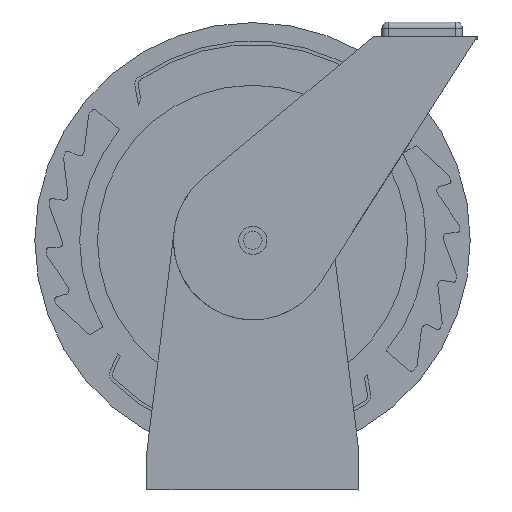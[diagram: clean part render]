
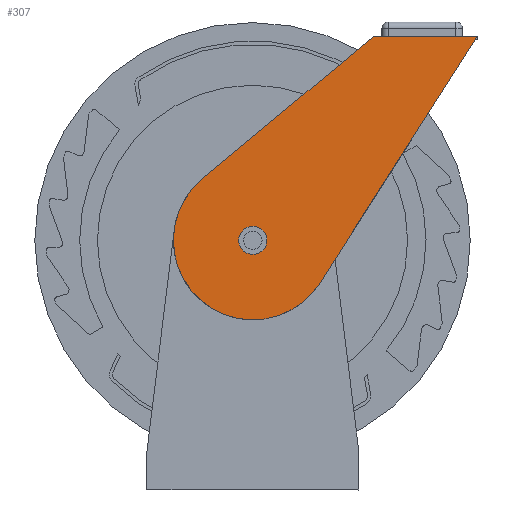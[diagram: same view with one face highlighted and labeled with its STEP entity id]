
A CAD part, left-side view. The second image highlights one B-rep face of the part: STEP entity #307.
In plain terms, the highlighted planar face has unit normal (-1, 0, 0).
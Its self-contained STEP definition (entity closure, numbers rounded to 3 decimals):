
#307 = ADVANCED_FACE( '', ( #754, #755 ), #756, .F. );
#754 = FACE_BOUND( '', #1352, .T. );
#755 = FACE_OUTER_BOUND( '', #1353, .T. );
#756 = PLANE( '', #1354 );
#1352 = EDGE_LOOP( '', ( #2283 ) );
#1353 = EDGE_LOOP( '', ( #2284, #2285, #2286, #2287 ) );
#1354 = AXIS2_PLACEMENT_3D( '', #2288, #2289, #2290 );
#2283 = ORIENTED_EDGE( '', *, *, #3775, .T. );
#2284 = ORIENTED_EDGE( '', *, *, #3776, .F. );
#2285 = ORIENTED_EDGE( '', *, *, #3777, .F. );
#2286 = ORIENTED_EDGE( '', *, *, #3778, .F. );
#2287 = ORIENTED_EDGE( '', *, *, #3779, .F. );
#2288 = CARTESIAN_POINT( '', ( 64.618, -0.314, 0. ) );
#2289 = DIRECTION( '', ( 1., 0., 0. ) );
#2290 = DIRECTION( '', ( 0., 1., 0. ) );
#3775 = EDGE_CURVE( '', #4635, #4635, #4636, .T. );
#3776 = EDGE_CURVE( '', #4637, #4638, #4639, .T. );
#3777 = EDGE_CURVE( '', #4640, #4637, #4641, .T. );
#3778 = EDGE_CURVE( '', #4642, #4640, #4643, .T. );
#3779 = EDGE_CURVE( '', #4638, #4642, #4644, .T. );
#4635 = VERTEX_POINT( '', #5783 );
#4636 = CIRCLE( '', #5784, 13.494 );
#4637 = VERTEX_POINT( '', #5785 );
#4638 = VERTEX_POINT( '', #5786 );
#4639 = LINE( '', #5787, #5788 );
#4640 = VERTEX_POINT( '', #5789 );
#4641 = LINE( '', #5790, #5791 );
#4642 = VERTEX_POINT( '', #5792 );
#4643 = CIRCLE( '', #5793, 76.2 );
#4644 = LINE( '', #5794, #5795 );
#5783 = CARTESIAN_POINT( '', ( 64.618, 13.179, 0. ) );
#5784 = AXIS2_PLACEMENT_3D( '', #6864, #6865, #6866 );
#5785 = CARTESIAN_POINT( '', ( 64.618, -115.527, 195.272 ) );
#5786 = CARTESIAN_POINT( '', ( 64.618, -215.417, 195.272 ) );
#5787 = CARTESIAN_POINT( '', ( 64.618, -215.417, 195.272 ) );
#5788 = VECTOR( '', #6867, 1000. );
#5789 = CARTESIAN_POINT( '', ( 64.618, 48.483, 58.526 ) );
#5790 = CARTESIAN_POINT( '', ( 64.618, 48.483, 58.526 ) );
#5791 = VECTOR( '', #6868, 1000. );
#5792 = CARTESIAN_POINT( '', ( 64.618, -64.537, -41.01 ) );
#5793 = AXIS2_PLACEMENT_3D( '', #6869, #6870, #6871 );
#5794 = CARTESIAN_POINT( '', ( 64.618, -215.417, 195.272 ) );
#5795 = VECTOR( '', #6872, 1000. );
#6864 = CARTESIAN_POINT( '', ( 64.618, -0.314, 0. ) );
#6865 = DIRECTION( '', ( 1., 0., 0. ) );
#6866 = DIRECTION( '', ( 0., 1., 0. ) );
#6867 = DIRECTION( '', ( 0., -1., 0. ) );
#6868 = DIRECTION( '', ( 0., -0.768, 0.64 ) );
#6869 = CARTESIAN_POINT( '', ( 64.618, -0.314, 0. ) );
#6870 = DIRECTION( '', ( 1., 0., 0. ) );
#6871 = DIRECTION( '', ( 0., -1., 0. ) );
#6872 = DIRECTION( '', ( 0., 0.538, -0.843 ) );
